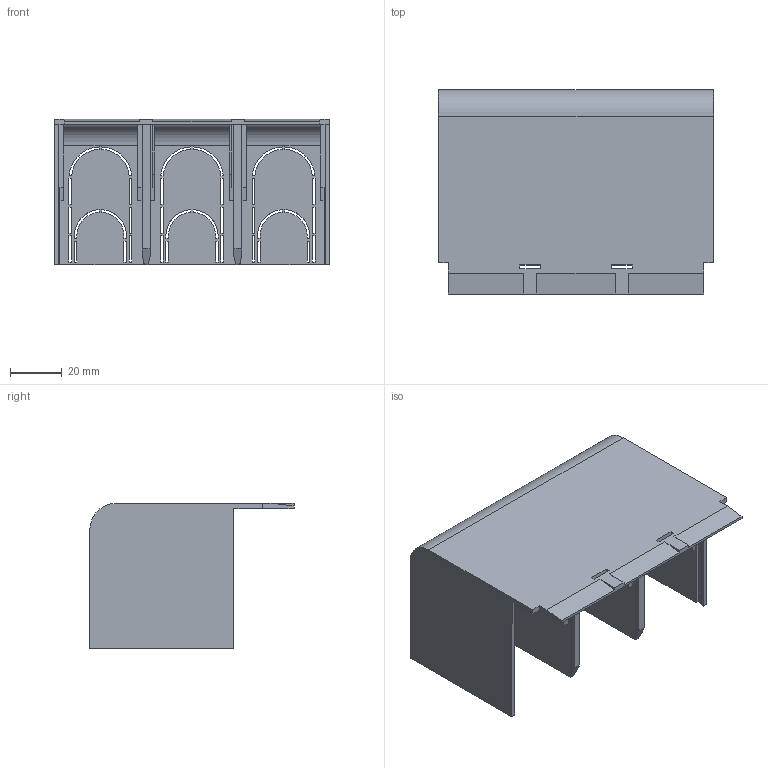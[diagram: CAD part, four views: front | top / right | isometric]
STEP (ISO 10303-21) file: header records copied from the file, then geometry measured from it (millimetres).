
FILE_DESCRIPTION (( 'STEP AP214' ), '1' );
FILE_NAME ('OptiMat E250 ñ êëåììíûìè êðûøêàìè âåðõíÿÿ.STEP', '2023-11-09T12:30:18', ( '' ), ( '' ), 'SwSTEP 2.0', 'SolidWorks 2018', '' );
FILE_SCHEMA (( 'AUTOMOTIVE_DESIGN' ));
Length unit declared in the file: millimetre
Products named in the file (2): OptiMat E250 ñ êëåììíûìè êðûøêàìè âåðõíÿÿ; Êðûøêà êëåììíàÿ E250_Šàëèª  ª«¥¬¬­ ï ƒ†ˆŠ.735384.098
Assembly tree (1 placements, depth 2):
  OptiMat E250 ñ êëåììíûìè êðûøêàìè âåðõíÿÿ
    Êðûøêà êëåììíàÿ E250_Šàëèª  ª«¥¬¬­ ï ƒ†ˆŠ.735384.098
Bounding box: 106.14 x 78.62 x 55.94 mm (x, y, z)
Volume: 47064.7 mm3; surface area: 52988.1 mm2
Topology: 1 solids, 1 shells, 258 faces, 776 edges, 508 vertices
Faces by surface type: plane 230, cylinder 25, cone 3
Entity records: 8795 total; most frequent: CARTESIAN_POINT 1588, ORIENTED_EDGE 1552, DIRECTION 1349, EDGE_CURVE 776, LINE 711, VECTOR 711, VERTEX_POINT 508, EDGE_LOOP 322
